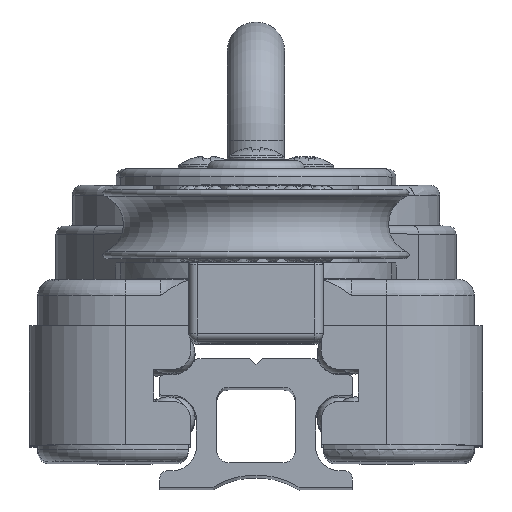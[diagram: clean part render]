
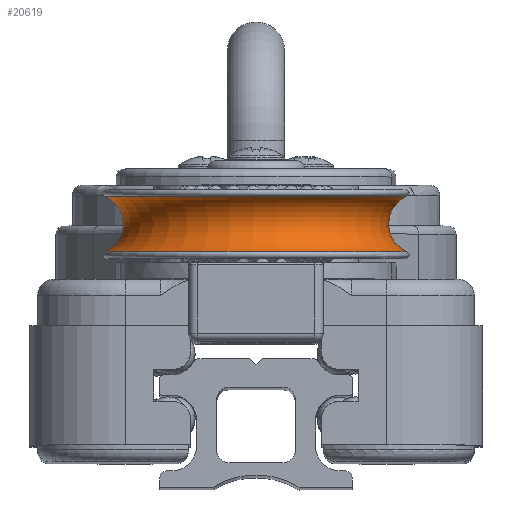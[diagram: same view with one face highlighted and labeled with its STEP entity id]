
A CAD part, top view. The second image highlights one B-rep face of the part: STEP entity #20619.
In plain terms, the highlighted toroidal (fillet/blend) face has major radius 39.9 mm and minor radius 7.4 mm.
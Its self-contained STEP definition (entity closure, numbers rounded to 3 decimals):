
#4641=FACE_BOUND('',#6344,.T.);
#5009=FACE_OUTER_BOUND('',#6343,.T.);
#6343=EDGE_LOOP('',(#14581));
#6344=EDGE_LOOP('',(#14582));
#8045=CIRCLE('',#22219,36.963);
#8046=CIRCLE('',#22220,36.963);
#9371=VERTEX_POINT('',#31852);
#9372=VERTEX_POINT('',#31854);
#11645=EDGE_CURVE('',#9371,#9371,#8045,.T.);
#11646=EDGE_CURVE('',#9372,#9372,#8046,.T.);
#14581=ORIENTED_EDGE('',*,*,#11645,.T.);
#14582=ORIENTED_EDGE('',*,*,#11646,.F.);
#20469=TOROIDAL_SURFACE('',#22218,39.9,7.4);
#20619=ADVANCED_FACE('',(#5009,#4641),#20469,.F.);
#22218=AXIS2_PLACEMENT_3D('',#31851,#24980,#24981);
#22219=AXIS2_PLACEMENT_3D('',#31853,#24982,#24983);
#22220=AXIS2_PLACEMENT_3D('',#31855,#24984,#24985);
#24980=DIRECTION('center_axis',(0.,-1.,0.));
#24981=DIRECTION('ref_axis',(-0.192,0.,0.981));
#24982=DIRECTION('center_axis',(0.,-1.,0.));
#24983=DIRECTION('ref_axis',(-0.981,0.,-0.192));
#24984=DIRECTION('center_axis',(0.,-1.,0.));
#24985=DIRECTION('ref_axis',(-0.981,0.,-0.192));
#31851=CARTESIAN_POINT('Origin',(0.,64.5,
175.75));
#31852=CARTESIAN_POINT('',(-36.274,71.292,168.645));
#31853=CARTESIAN_POINT('Origin',(0.,71.292,
175.75));
#31854=CARTESIAN_POINT('',(-36.274,57.708,168.645));
#31855=CARTESIAN_POINT('Origin',(0.,57.708,
175.75));
